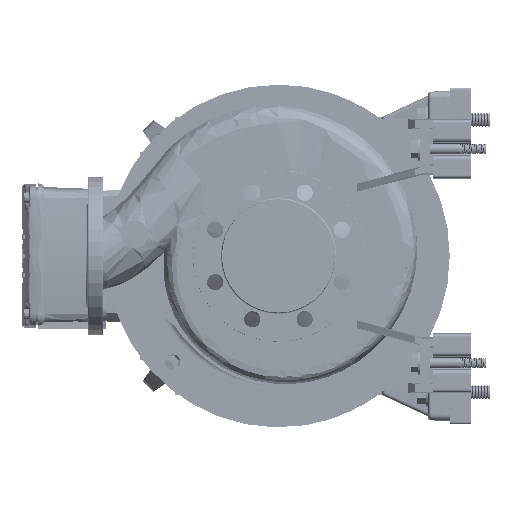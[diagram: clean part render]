
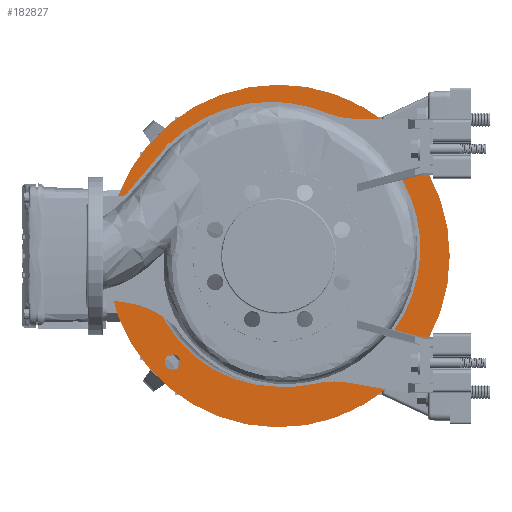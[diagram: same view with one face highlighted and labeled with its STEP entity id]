
A CAD part, left-side view. The second image highlights one B-rep face of the part: STEP entity #182827.
In plain terms, the highlighted planar face has unit normal (-1, 0, 0).
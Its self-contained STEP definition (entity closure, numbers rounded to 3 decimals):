
#152 = ORIENTED_EDGE ( 'NONE', *, *, #219126, .T. ) ;
#467 = ORIENTED_EDGE ( 'NONE', *, *, #201382, .F. ) ;
#1325 = CARTESIAN_POINT ( 'NONE',  ( 224., 123.745, 123.745 ) ) ;
#6786 = CARTESIAN_POINT ( 'NONE',  ( 224., 123.745, 114.745 ) ) ;
#6913 = EDGE_CURVE ( 'NONE', #76202, #64008, #29279, .T. ) ;
#7952 = CIRCLE ( 'NONE', #245175, 152.679 ) ;
#8116 = AXIS2_PLACEMENT_3D ( 'NONE', #262424, #49457, #116629 ) ;
#8210 = VERTEX_POINT ( 'NONE', #173055 ) ;
#8741 = PLANE ( 'NONE',  #8116 ) ;
#8904 = CIRCLE ( 'NONE', #209744, 152.679 ) ;
#9832 = DIRECTION ( 'NONE',  ( 0., 0., 1. ) ) ;
#10070 = CARTESIAN_POINT ( 'NONE',  ( 224., -123.743, 123.745 ) ) ;
#14653 = CIRCLE ( 'NONE', #207310, 9. ) ;
#16749 = CARTESIAN_POINT ( 'NONE',  ( 224., 0.001, 0.002 ) ) ;
#17295 = CIRCLE ( 'NONE', #93392, 9. ) ;
#17776 = VERTEX_POINT ( 'NONE', #68490 ) ;
#21227 = DIRECTION ( 'NONE',  ( 0., 0., 1. ) ) ;
#21394 = VERTEX_POINT ( 'NONE', #6786 ) ;
#23369 = EDGE_CURVE ( 'NONE', #30591, #206613, #17295, .T. ) ;
#23741 = DIRECTION ( 'NONE',  ( 1., 0., 0. ) ) ;
#23744 = DIRECTION ( 'NONE',  ( 0., 0., -1. ) ) ;
#29279 = CIRCLE ( 'NONE', #123072, 200. ) ;
#30387 = DIRECTION ( 'NONE',  ( 1., 0., 0. ) ) ;
#30591 = VERTEX_POINT ( 'NONE', #165449 ) ;
#32484 = DIRECTION ( 'NONE',  ( 0., 0., 1. ) ) ;
#38715 = CARTESIAN_POINT ( 'NONE',  ( 224., -123.743, -132.742 ) ) ;
#41927 = EDGE_LOOP ( 'NONE', ( #202474, #163192 ) ) ;
#44762 = DIRECTION ( 'NONE',  ( 1., 0., 0. ) ) ;
#44930 = DIRECTION ( 'NONE',  ( 1., 0., 0. ) ) ;
#47798 = CARTESIAN_POINT ( 'NONE',  ( 224., -134.997, 0.002 ) ) ;
#47976 = DIRECTION ( 'NONE',  ( 0., 0., -1. ) ) ;
#49244 = CIRCLE ( 'NONE', #156414, 9. ) ;
#49457 = DIRECTION ( 'NONE',  ( -1., 0., 0. ) ) ;
#52001 = CIRCLE ( 'NONE', #181600, 9. ) ;
#53341 = CARTESIAN_POINT ( 'NONE',  ( 224., -151.791, 16.44 ) ) ;
#53491 = EDGE_CURVE ( 'NONE', #8210, #54637, #8904, .T. ) ;
#54637 = VERTEX_POINT ( 'NONE', #117443 ) ;
#55177 = CARTESIAN_POINT ( 'NONE',  ( 224., 0.001, 152.681 ) ) ;
#55295 = VERTEX_POINT ( 'NONE', #250171 ) ;
#57977 = DIRECTION ( 'NONE',  ( 1., 0., 0. ) ) ;
#58263 = ORIENTED_EDGE ( 'NONE', *, *, #80745, .T. ) ;
#58817 = DIRECTION ( 'NONE',  ( 0., 0., -1. ) ) ;
#62134 = DIRECTION ( 'NONE',  ( 0., 0., 1. ) ) ;
#64008 = VERTEX_POINT ( 'NONE', #195233 ) ;
#64575 = CARTESIAN_POINT ( 'NONE',  ( 224., -123.743, -123.742 ) ) ;
#68490 = CARTESIAN_POINT ( 'NONE',  ( 224., -123.743, 132.745 ) ) ;
#70300 = VERTEX_POINT ( 'NONE', #173801 ) ;
#70380 = CARTESIAN_POINT ( 'NONE',  ( 224., 0.001, 0.002 ) ) ;
#71656 = CARTESIAN_POINT ( 'NONE',  ( 224., 0.001, -199.998 ) ) ;
#71858 = FACE_BOUND ( 'NONE', #238755, .T. ) ;
#72475 = AXIS2_PLACEMENT_3D ( 'NONE', #150082, #173955, #21227 ) ;
#73237 = FACE_BOUND ( 'NONE', #268728, .T. ) ;
#76202 = VERTEX_POINT ( 'NONE', #71656 ) ;
#76604 = CIRCLE ( 'NONE', #215258, 9. ) ;
#78671 = DIRECTION ( 'NONE',  ( 0., 0., -1. ) ) ;
#80307 = EDGE_CURVE ( 'NONE', #55295, #70300, #164171, .T. ) ;
#80745 = EDGE_CURVE ( 'NONE', #145056, #17776, #52001, .T. ) ;
#89563 = EDGE_CURVE ( 'NONE', #165027, #21394, #116932, .T. ) ;
#93392 = AXIS2_PLACEMENT_3D ( 'NONE', #64575, #44930, #129015 ) ;
#93478 = DIRECTION ( 'NONE',  ( 0., 0., 1. ) ) ;
#94717 = CIRCLE ( 'NONE', #188505, 200. ) ;
#95620 = FACE_BOUND ( 'NONE', #258683, .T. ) ;
#97848 = ORIENTED_EDGE ( 'NONE', *, *, #120670, .T. ) ;
#109219 = CARTESIAN_POINT ( 'NONE',  ( 224., 0.001, 0.002 ) ) ;
#112084 = AXIS2_PLACEMENT_3D ( 'NONE', #16749, #250771, #58817 ) ;
#112239 = DIRECTION ( 'NONE',  ( 1., 0., 0. ) ) ;
#115263 = FACE_BOUND ( 'NONE', #41927, .T. ) ;
#116629 = DIRECTION ( 'NONE',  ( 0., 0., 1. ) ) ;
#116932 = CIRCLE ( 'NONE', #224371, 9. ) ;
#117443 = CARTESIAN_POINT ( 'NONE',  ( 224., 0.001, -152.678 ) ) ;
#120670 = EDGE_CURVE ( 'NONE', #194597, #163208, #7952, .T. ) ;
#121037 = CARTESIAN_POINT ( 'NONE',  ( 224., 0.001, 0.002 ) ) ;
#122448 = CARTESIAN_POINT ( 'NONE',  ( 224., 123.745, -123.742 ) ) ;
#123072 = AXIS2_PLACEMENT_3D ( 'NONE', #109219, #217127, #23744 ) ;
#125555 = ORIENTED_EDGE ( 'NONE', *, *, #203776, .T. ) ;
#129015 = DIRECTION ( 'NONE',  ( 0., 0., 1. ) ) ;
#131481 = ORIENTED_EDGE ( 'NONE', *, *, #238367, .T. ) ;
#133546 = FACE_OUTER_BOUND ( 'NONE', #164615, .T. ) ;
#144830 = ORIENTED_EDGE ( 'NONE', *, *, #23369, .T. ) ;
#145056 = VERTEX_POINT ( 'NONE', #182184 ) ;
#146635 = CARTESIAN_POINT ( 'NONE',  ( 224., 123.745, 132.745 ) ) ;
#150082 = CARTESIAN_POINT ( 'NONE',  ( 224., 123.745, 123.745 ) ) ;
#151219 = DIRECTION ( 'NONE',  ( 0., 0., 1. ) ) ;
#154425 = DIRECTION ( 'NONE',  ( 1., 0., 0. ) ) ;
#156414 = AXIS2_PLACEMENT_3D ( 'NONE', #195109, #241369, #197872 ) ;
#157550 = EDGE_CURVE ( 'NONE', #70300, #55295, #76604, .T. ) ;
#158255 = ORIENTED_EDGE ( 'NONE', *, *, #6913, .F. ) ;
#159980 = DIRECTION ( 'NONE',  ( 1., 0., 0. ) ) ;
#163192 = ORIENTED_EDGE ( 'NONE', *, *, #80307, .T. ) ;
#163208 = VERTEX_POINT ( 'NONE', #53341 ) ;
#164171 = CIRCLE ( 'NONE', #200017, 9. ) ;
#164615 = EDGE_LOOP ( 'NONE', ( #158255, #467 ) ) ;
#165027 = VERTEX_POINT ( 'NONE', #146635 ) ;
#165449 = CARTESIAN_POINT ( 'NONE',  ( 224., -123.743, -114.742 ) ) ;
#165621 = CIRCLE ( 'NONE', #112084, 152.679 ) ;
#169397 = EDGE_CURVE ( 'NONE', #54637, #194597, #165621, .T. ) ;
#173055 = CARTESIAN_POINT ( 'NONE',  ( 224., -151.791, -16.437 ) ) ;
#173801 = CARTESIAN_POINT ( 'NONE',  ( 224., 123.745, -132.742 ) ) ;
#173955 = DIRECTION ( 'NONE',  ( 1., 0., 0. ) ) ;
#181600 = AXIS2_PLACEMENT_3D ( 'NONE', #10070, #159980, #32484 ) ;
#182184 = CARTESIAN_POINT ( 'NONE',  ( 224., -123.743, 114.745 ) ) ;
#182827 = ADVANCED_FACE ( 'NONE', ( #133546, #115263, #73237, #95620, #71858, #241447 ), #8741, .T. ) ;
#185161 = CARTESIAN_POINT ( 'NONE',  ( 224., 0.001, 0.002 ) ) ;
#188505 = AXIS2_PLACEMENT_3D ( 'NONE', #121037, #57977, #233052 ) ;
#194597 = VERTEX_POINT ( 'NONE', #55177 ) ;
#195109 = CARTESIAN_POINT ( 'NONE',  ( 224., -123.743, 123.745 ) ) ;
#195233 = CARTESIAN_POINT ( 'NONE',  ( 224., 0.001, 200.002 ) ) ;
#195422 = EDGE_LOOP ( 'NONE', ( #235047, #252937, #97848, #152 ) ) ;
#197872 = DIRECTION ( 'NONE',  ( 0., 0., 1. ) ) ;
#200017 = AXIS2_PLACEMENT_3D ( 'NONE', #122448, #209299, #62134 ) ;
#201382 = EDGE_CURVE ( 'NONE', #64008, #76202, #94717, .T. ) ;
#202474 = ORIENTED_EDGE ( 'NONE', *, *, #157550, .T. ) ;
#203776 = EDGE_CURVE ( 'NONE', #206613, #30591, #14653, .T. ) ;
#206613 = VERTEX_POINT ( 'NONE', #38715 ) ;
#207310 = AXIS2_PLACEMENT_3D ( 'NONE', #225098, #30387, #93478 ) ;
#208796 = DIRECTION ( 'NONE',  ( 0., 0., 1. ) ) ;
#209299 = DIRECTION ( 'NONE',  ( 1., 0., 0. ) ) ;
#209744 = AXIS2_PLACEMENT_3D ( 'NONE', #70380, #154425, #47976 ) ;
#214084 = CIRCLE ( 'NONE', #245449, 23.5 ) ;
#215258 = AXIS2_PLACEMENT_3D ( 'NONE', #277360, #44762, #208796 ) ;
#217127 = DIRECTION ( 'NONE',  ( 1., 0., 0. ) ) ;
#219126 = EDGE_CURVE ( 'NONE', #163208, #8210, #214084, .T. ) ;
#220084 = CIRCLE ( 'NONE', #72475, 9. ) ;
#221333 = EDGE_CURVE ( 'NONE', #17776, #145056, #49244, .T. ) ;
#224371 = AXIS2_PLACEMENT_3D ( 'NONE', #1325, #23741, #151219 ) ;
#225098 = CARTESIAN_POINT ( 'NONE',  ( 224., -123.743, -123.742 ) ) ;
#226796 = ORIENTED_EDGE ( 'NONE', *, *, #221333, .T. ) ;
#228595 = DIRECTION ( 'NONE',  ( 1., 0., 0. ) ) ;
#233052 = DIRECTION ( 'NONE',  ( 0., 0., -1. ) ) ;
#235047 = ORIENTED_EDGE ( 'NONE', *, *, #53491, .T. ) ;
#237770 = ORIENTED_EDGE ( 'NONE', *, *, #89563, .T. ) ;
#238367 = EDGE_CURVE ( 'NONE', #21394, #165027, #220084, .T. ) ;
#238755 = EDGE_LOOP ( 'NONE', ( #125555, #144830 ) ) ;
#241369 = DIRECTION ( 'NONE',  ( 1., 0., 0. ) ) ;
#241447 = FACE_BOUND ( 'NONE', #195422, .T. ) ;
#245175 = AXIS2_PLACEMENT_3D ( 'NONE', #185161, #228595, #78671 ) ;
#245449 = AXIS2_PLACEMENT_3D ( 'NONE', #47798, #112239, #9832 ) ;
#250171 = CARTESIAN_POINT ( 'NONE',  ( 224., 123.745, -114.742 ) ) ;
#250771 = DIRECTION ( 'NONE',  ( 1., 0., 0. ) ) ;
#252937 = ORIENTED_EDGE ( 'NONE', *, *, #169397, .T. ) ;
#258683 = EDGE_LOOP ( 'NONE', ( #58263, #226796 ) ) ;
#262424 = CARTESIAN_POINT ( 'NONE',  ( 224., 200.001, 0.002 ) ) ;
#268728 = EDGE_LOOP ( 'NONE', ( #131481, #237770 ) ) ;
#277360 = CARTESIAN_POINT ( 'NONE',  ( 224., 123.745, -123.742 ) ) ;
